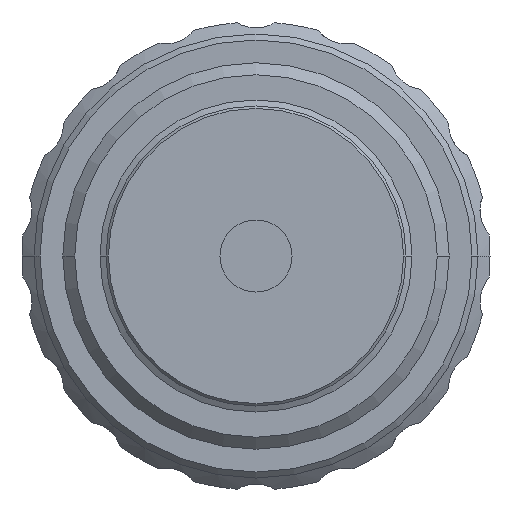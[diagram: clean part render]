
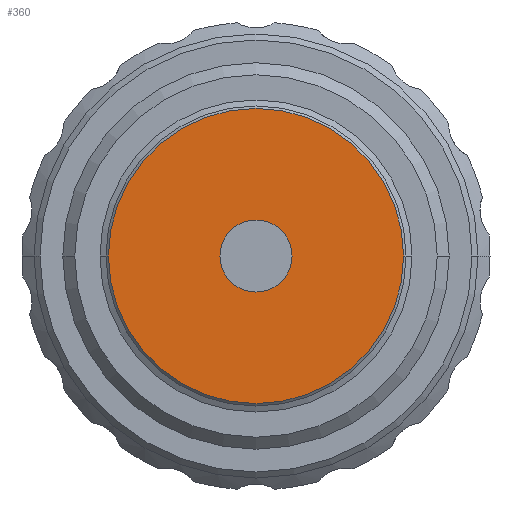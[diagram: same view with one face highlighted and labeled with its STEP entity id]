
A CAD part, left-side view. The second image highlights one B-rep face of the part: STEP entity #360.
In plain terms, the highlighted planar face has unit normal (-1, 0, 0).
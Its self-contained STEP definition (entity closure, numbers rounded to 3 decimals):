
#10=CARTESIAN_POINT('',(2.515,62.352,0.));
#20=DIRECTION('',(1.,0.,0.));
#30=DIRECTION('',(0.,-1.,0.));
#40=AXIS2_PLACEMENT_3D('',#10,#20,#30);
#50=PLANE('',#40);
#60=CARTESIAN_POINT('',(2.515,50.352,0.));
#70=DIRECTION('',(-1.,0.,0.));
#80=DIRECTION('',(0.,1.,0.));
#90=AXIS2_PLACEMENT_3D('',#60,#70,#80);
#100=CIRCLE('',#90,12.3);
#110=CARTESIAN_POINT('',(2.515,62.652,
0.));
#120=VERTEX_POINT('',#110);
#130=CARTESIAN_POINT('',(2.515,38.052,0.));
#140=VERTEX_POINT('',#130);
#150=EDGE_CURVE('',#120,#140,#100,.T.);
#160=ORIENTED_EDGE('',*,*,#150,.T.);
#170=EDGE_CURVE('',#140,#120,#100,.T.);
#180=ORIENTED_EDGE('',*,*,#170,.T.);
#190=EDGE_LOOP('',(#180,#160));
#200=FACE_OUTER_BOUND('',#190,.T.);
#210=CARTESIAN_POINT('',(2.515,50.352,0.));
#220=DIRECTION('',(-1.,0.,0.));
#230=DIRECTION('',(0.,0.,1.));
#240=AXIS2_PLACEMENT_3D('',#210,#220,#230);
#250=CIRCLE('',#240,3.);
#260=CARTESIAN_POINT('',(2.515,50.352,3.));
#270=VERTEX_POINT('',#260);
#280=CARTESIAN_POINT('',(2.515,50.352,-3.));
#290=VERTEX_POINT('',#280);
#300=EDGE_CURVE('',#270,#290,#250,.T.);
#310=ORIENTED_EDGE('',*,*,#300,.F.);
#320=EDGE_CURVE('',#290,#270,#250,.T.);
#330=ORIENTED_EDGE('',*,*,#320,.F.);
#340=EDGE_LOOP('',(#330,#310));
#350=FACE_BOUND('',#340,.T.);
#360=ADVANCED_FACE('',(#200,#350),#50,.F.);
